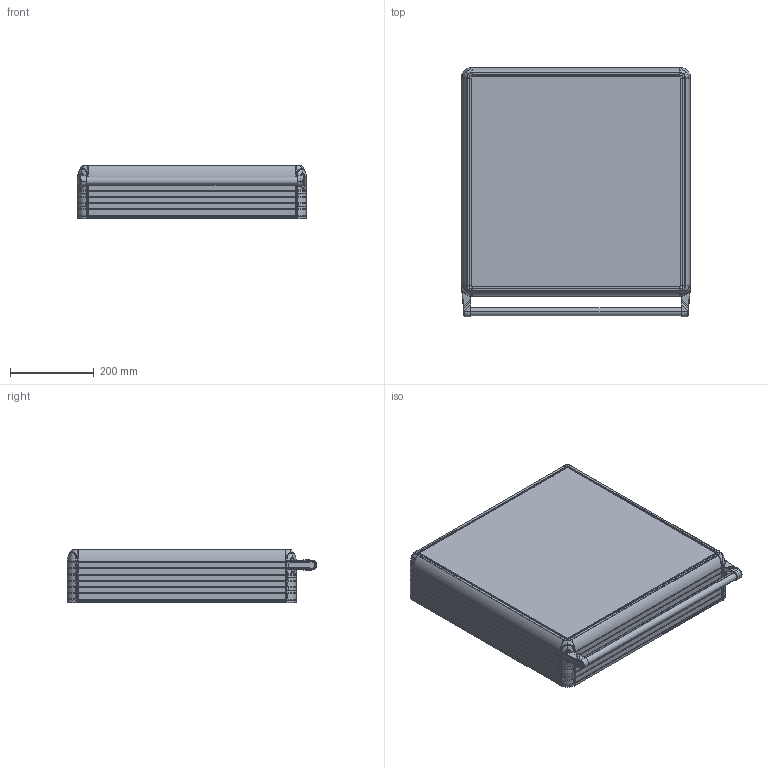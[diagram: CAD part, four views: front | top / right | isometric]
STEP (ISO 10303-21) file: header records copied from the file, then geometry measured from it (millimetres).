
FILE_DESCRIPTION (( 'STEP AP214' ), '1' );
FILE_NAME ('1200-0113.STEP', '2022-04-20T11:12:02', ( '' ), ( '' ), 'SwSTEP 2.0', 'SolidWorks 2022', '' );
FILE_SCHEMA (( 'AUTOMOTIVE_DESIGN' ));
Length unit declared in the file: millimetre
Products named in the file (8): 500X500; ARKA_KAPAK_VÝDALI_500X500; 1200-0113; ECO1200-0100(SOL); ECO1200-0000; boru_525; ECO1200-0100(SAÐ); HPECO-120-001-295_495
Assembly tree (11 placements, depth 2):
  1200-0113
    500X500
    ARKA_KAPAK_VÝDALI_500X500
    ECO1200-0000  x2
    boru_525
    ECO1200-0100(SAÐ)
    ECO1200-0100(SOL)
    HPECO-120-001-295_495  x4
Bounding box: 547 x 595.81 x 128.05 mm (x, y, z)
Volume: 5298597.5 mm3; surface area: 1946870 mm2
Topology: 15 solids, 17 shells, 4016 faces, 10827 edges, 6834 vertices
Faces by surface type: plane 1652, bspline 1062, cylinder 1000, cone 140, torus 138, sphere 24
Entity records: 142398 total; most frequent: CARTESIAN_POINT 46674, ORIENTED_EDGE 15738, DIRECTION 10782, EDGE_CURVE 7869, VERTEX_POINT 4963, AXIS2_PLACEMENT_3D 3622, LINE 3538, VECTOR 3538
